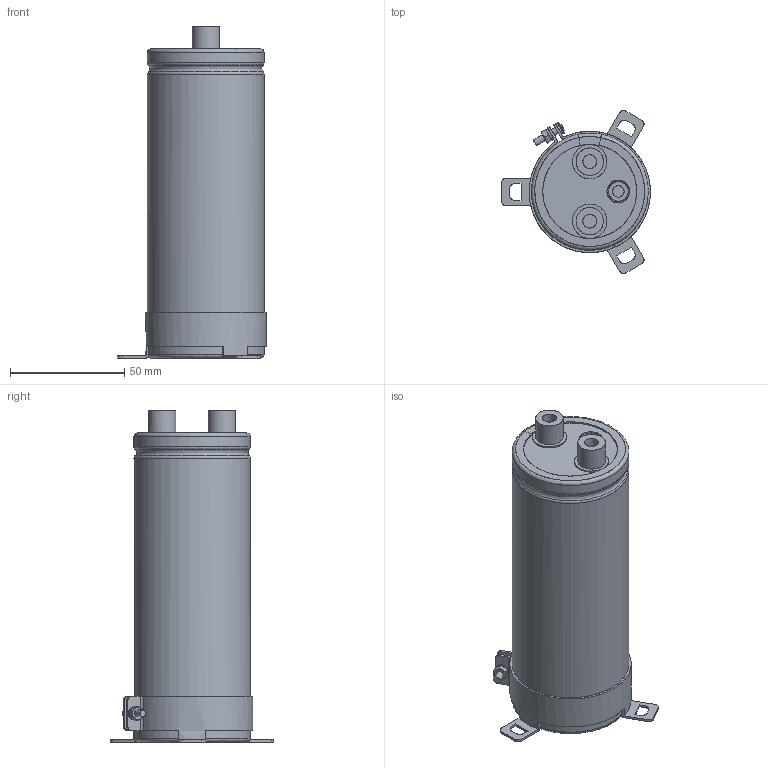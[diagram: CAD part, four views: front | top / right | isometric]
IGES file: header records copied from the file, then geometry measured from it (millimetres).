
Start section: JAMA-IS VERSION  1.0
Bounding box: 65 x 71.22 x 145 mm (x, y, z)
Surface area: 79398.4 mm2 (no closed solid volume)
Topology: 0 solids, 0 shells, 257 faces, 4348 edges, 4319 vertices
Faces by surface type: bspline 257
